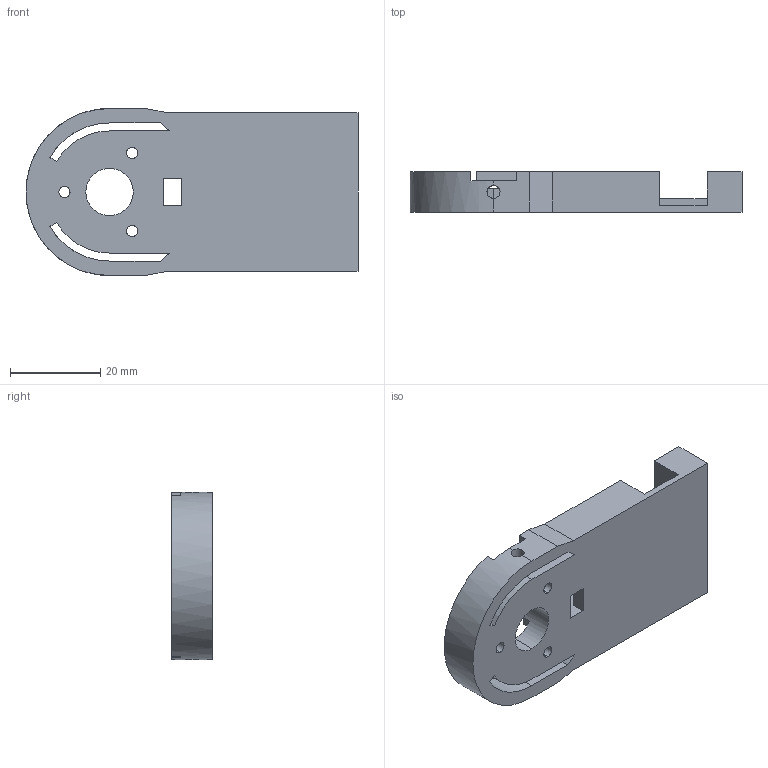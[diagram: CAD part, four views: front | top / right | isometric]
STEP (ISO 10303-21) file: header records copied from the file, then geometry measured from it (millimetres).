
FILE_DESCRIPTION(('Open CASCADE Model'),'2;1');
FILE_NAME('electronics-carrier.step','2026-11-14T14:29:28',('Author'),( 'Open CASCADE'),'Open CASCADE STEP processor 8.0','Open CASCADE 8.0' ,'Unknown');
FILE_SCHEMA(('AP242_MANAGED_MODEL_BASED_3D_ENGINEERING_MIM_LF {1 0 10303 442 1 1 4 }' ));
Length unit declared in the file: millimetre
Products named in the file (1): Electronics Carrier
Bounding box: 73.53 x 9 x 37 mm (x, y, z)
Volume: 11724.4 mm3; surface area: 8622.7 mm2
Topology: 1 solids, 1 shells, 96 faces, 287 edges, 189 vertices
Faces by surface type: plane 63, cylinder 31, cone 2
Entity records: 7884 total; most frequent: CARTESIAN_POINT 2183, DIRECTION 1071, LINE 685, VECTOR 685, ORIENTED_EDGE 570, PCURVE 570, DEFINITIONAL_REPRESENTATION 570, EDGE_CURVE 285
